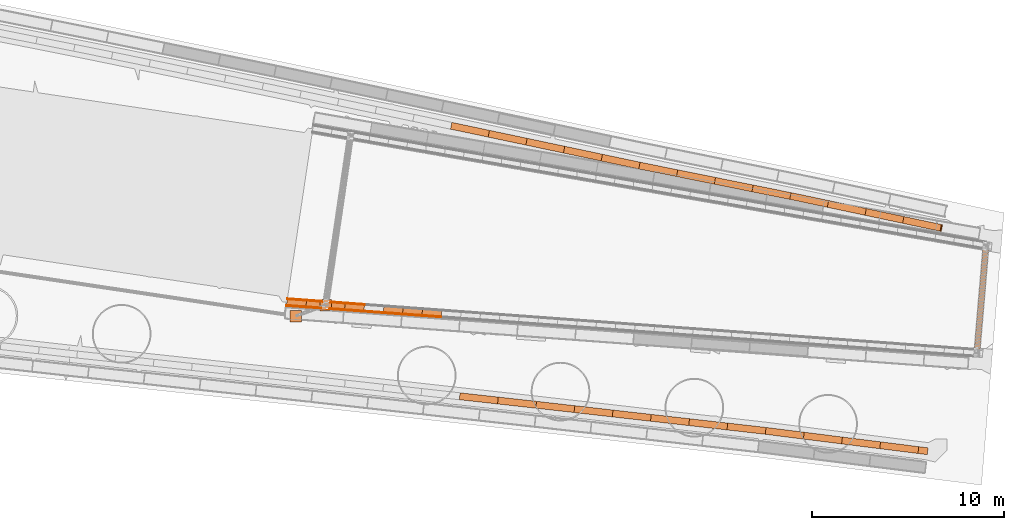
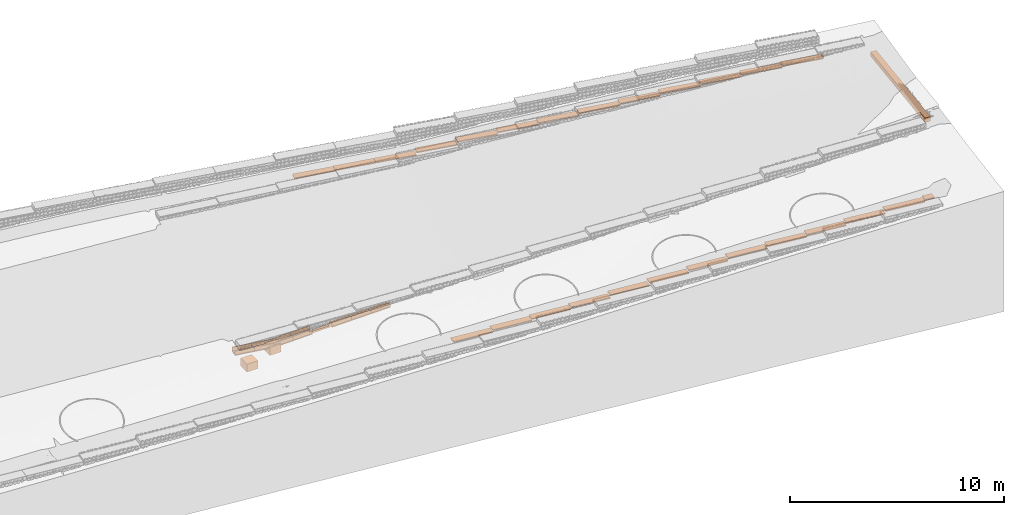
# Not in any storey, part 9 of 46: 49 proxies.
"""IFC4 model written with IfcOpenShell, lengths in metres."""

from ifc_helpers import new_model, si_unit, direction, frame, origin_with_axes, place, context, subcontext, project, spatial, polyline, outline, extrude, polygons, material, element, save


model = new_model("IFC4")

# Units and contexts
model_context = context("Model", 3, precision=1e-05, world=origin_with_axes(), true_north=direction((0.0, 1.0)))
body_context = subcontext(model_context, "Body", "Model", "MODEL_VIEW")
ifc_project = project(units=[si_unit("VOLUMEUNIT", "CUBIC_METRE"), si_unit("LENGTHUNIT", "METRE"), si_unit("AREAUNIT", "SQUARE_METRE")], contexts=[model_context])

# Site
site_placement = place(None, origin_with_axes())
site = spatial("IfcSite", under=ifc_project, at=site_placement, Name="Lares · Rua das Mercês · artigo 4771")

# Proxies
ifc_material_1 = material(Name="Caleiras · betão", Category="concrete")
proxy_1_placement = place(site_placement, frame((0.0, 0.0, 0.0), z_axis=(0.0, 0.0, 1.0), x_axis=(1.0, -1.03767253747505e-17, 0.0)))
element("IfcBuildingElementProxy", 1, at=proxy_1_placement, inside=site, material=ifc_material_1, Name="Acesso · canal lateral", ObjectType="Acesso · canal lateral", PredefinedType="USERDEFINED", context=body_context, shape_type="Tessellation", body=[
    polygons([(46.569207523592, 2.74740580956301, 13.48), (46.6281218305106, 3.14304340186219, 13.48), (47.6327046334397, 3.06917172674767, 13.4), (47.5737903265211, 2.67353413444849, 13.4), (46.569207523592, 2.74740580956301, 13.54), (46.6281218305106, 3.14304340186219, 13.54), (47.6327046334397, 3.06917172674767, 13.46), (47.5737903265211, 2.67353413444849, 13.46)], [[[4, 3, 2, 1]], [[5, 6, 7, 8]], [[1, 2, 6, 5]], [[2, 3, 7, 6]], [[3, 4, 8, 7]], [[4, 1, 5, 8]]]),
])
proxy_2_placement = place(site_placement, frame((0.0, 0.0, 0.0), z_axis=(0.0, 0.0, 1.0), x_axis=(1.0, -1.03767253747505e-17, 0.0)))
element("IfcBuildingElementProxy", 2, at=proxy_2_placement, inside=site, material=ifc_material_1, Name="Acesso · canal lateral", ObjectType="Acesso · canal lateral", PredefinedType="USERDEFINED", context=body_context, shape_type="Tessellation", body=[
    polygons([(46.569207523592, 2.74740580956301, 13.54), (46.5765718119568, 2.79686050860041, 13.54), (47.5811546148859, 2.72298883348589, 13.46), (47.5737903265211, 2.67353413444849, 13.46), (46.569207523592, 2.74740580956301, 13.74), (46.5765718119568, 2.79686050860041, 13.74), (47.5811546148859, 2.72298883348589, 13.66), (47.5737903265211, 2.67353413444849, 13.66)], [[[4, 3, 2, 1]], [[5, 6, 7, 8]], [[1, 2, 6, 5]], [[2, 3, 7, 6]], [[3, 4, 8, 7]], [[4, 1, 5, 8]]]),
])
proxy_3_placement = place(site_placement, frame((0.0, 0.0, 0.0), z_axis=(0.0, 0.0, 1.0), x_axis=(1.0, -1.03767253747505e-17, 0.0)))
element("IfcBuildingElementProxy", 3, at=proxy_3_placement, inside=site, material=ifc_material_1, Name="Acesso · canal lateral", ObjectType="Acesso · canal lateral", PredefinedType="USERDEFINED", context=body_context, shape_type="Tessellation", body=[
    polygons([(46.6207575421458, 3.0935887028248, 13.54), (46.6281218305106, 3.14304340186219, 13.54), (47.6327046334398, 3.06917172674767, 13.46), (47.6253403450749, 3.01971702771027, 13.46), (46.6207575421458, 3.0935887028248, 13.74), (46.6281218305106, 3.14304340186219, 13.74), (47.6327046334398, 3.06917172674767, 13.66), (47.6253403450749, 3.01971702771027, 13.66)], [[[4, 3, 2, 1]], [[5, 6, 7, 8]], [[1, 2, 6, 5]], [[2, 3, 7, 6]], [[3, 4, 8, 7]], [[4, 1, 5, 8]]]),
])
proxy_4_placement = place(site_placement, frame((0.0, 0.0, 0.0), z_axis=(0.0, 0.0, 1.0), x_axis=(1.0, -1.03767253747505e-17, 0.0)))
element("IfcBuildingElementProxy", 4, at=proxy_4_placement, inside=site, material=ifc_material_1, Name="Acesso · canal lateral", ObjectType="Acesso · canal lateral", PredefinedType="USERDEFINED", context=body_context, shape_type="Tessellation", body=[
    polygons([(47.5740034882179, 2.6735025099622, 13.4), (47.6324914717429, 3.06920335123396, 13.4), (48.6370807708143, 2.99533101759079, 13.32), (48.5785927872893, 2.59963017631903, 13.32), (47.5740034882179, 2.6735025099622, 13.46), (47.6324914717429, 3.06920335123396, 13.46), (48.6370807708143, 2.99533101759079, 13.38), (48.5785927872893, 2.59963017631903, 13.38)], [[[4, 3, 2, 1]], [[5, 6, 7, 8]], [[1, 2, 6, 5]], [[2, 3, 7, 6]], [[3, 4, 8, 7]], [[4, 1, 5, 8]]]),
])
proxy_5_placement = place(site_placement, frame((0.0, 0.0, 0.0), z_axis=(0.0, 0.0, 1.0), x_axis=(1.0, -1.03767253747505e-17, 0.0)))
element("IfcBuildingElementProxy", 5, at=proxy_5_placement, inside=site, material=ifc_material_1, Name="Acesso · canal lateral", ObjectType="Acesso · canal lateral", PredefinedType="USERDEFINED", context=body_context, shape_type="Tessellation", body=[
    polygons([(47.5740034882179, 2.6735025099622, 13.46), (47.5813144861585, 2.72296511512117, 13.46), (48.58590378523, 2.649092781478, 13.38), (48.5785927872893, 2.59963017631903, 13.38), (47.5740034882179, 2.6735025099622, 13.66), (47.5813144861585, 2.72296511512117, 13.66), (48.58590378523, 2.649092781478, 13.58), (48.5785927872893, 2.59963017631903, 13.58)], [[[4, 3, 2, 1]], [[5, 6, 7, 8]], [[1, 2, 6, 5]], [[2, 3, 7, 6]], [[3, 4, 8, 7]], [[4, 1, 5, 8]]]),
])
proxy_6_placement = place(site_placement, frame((0.0, 0.0, 0.0), z_axis=(0.0, 0.0, 1.0), x_axis=(1.0, -1.03767253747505e-17, 0.0)))
element("IfcBuildingElementProxy", 6, at=proxy_6_placement, inside=site, material=ifc_material_1, Name="Acesso · canal lateral", ObjectType="Acesso · canal lateral", PredefinedType="USERDEFINED", context=body_context, shape_type="Tessellation", body=[
    polygons([(47.6251804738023, 3.01974074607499, 13.46), (47.6324914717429, 3.06920335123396, 13.46), (48.6370807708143, 2.99533101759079, 13.38), (48.6297697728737, 2.94586841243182, 13.38), (47.6251804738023, 3.01974074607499, 13.66), (47.6324914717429, 3.06920335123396, 13.66), (48.6370807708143, 2.99533101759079, 13.58), (48.6297697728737, 2.94586841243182, 13.58)], [[[4, 3, 2, 1]], [[5, 6, 7, 8]], [[1, 2, 6, 5]], [[2, 3, 7, 6]], [[3, 4, 8, 7]], [[4, 1, 5, 8]]]),
])
proxy_7_placement = place(site_placement, frame((0.0, 0.0, 0.0), z_axis=(0.0, 0.0, 1.0), x_axis=(1.0, -1.03767253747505e-17, 0.0)))
element("IfcBuildingElementProxy", 7, at=proxy_7_placement, inside=site, material=ifc_material_1, Name="Acesso · canal lateral", ObjectType="Acesso · canal lateral", PredefinedType="USERDEFINED", context=body_context, shape_type="Tessellation", body=[
    polygons([(48.5788110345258, 2.5995980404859, 13.32), (48.6368625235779, 2.99536315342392, 13.32), (49.6414585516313, 2.92149014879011, 13.4), (49.5834070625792, 2.52572503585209, 13.4), (48.5788110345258, 2.5995980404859, 13.38), (48.6368625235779, 2.99536315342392, 13.38), (49.6414585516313, 2.92149014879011, 13.46), (49.5834070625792, 2.52572503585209, 13.46)], [[[4, 3, 2, 1]], [[5, 6, 7, 8]], [[1, 2, 6, 5]], [[2, 3, 7, 6]], [[3, 4, 8, 7]], [[4, 1, 5, 8]]]),
])
proxy_8_placement = place(site_placement, frame((0.0, 0.0, 0.0), z_axis=(0.0, 0.0, 1.0), x_axis=(1.0, -1.03767253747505e-17, 0.0)))
element("IfcBuildingElementProxy", 8, at=proxy_8_placement, inside=site, material=ifc_material_1, Name="Acesso · canal lateral", ObjectType="Acesso · canal lateral", PredefinedType="USERDEFINED", context=body_context, shape_type="Tessellation", body=[
    polygons([(48.5788110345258, 2.5995980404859, 13.38), (48.5860674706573, 2.64906867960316, 13.38), (49.5906634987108, 2.57519567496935, 13.46), (49.5834070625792, 2.52572503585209, 13.46), (48.5788110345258, 2.5995980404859, 13.58), (48.5860674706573, 2.64906867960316, 13.58), (49.5906634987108, 2.57519567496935, 13.66), (49.5834070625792, 2.52572503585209, 13.66)], [[[4, 3, 2, 1]], [[5, 6, 7, 8]], [[1, 2, 6, 5]], [[2, 3, 7, 6]], [[3, 4, 8, 7]], [[4, 1, 5, 8]]]),
])
proxy_9_placement = place(site_placement, frame((0.0, 0.0, 0.0), z_axis=(0.0, 0.0, 1.0), x_axis=(1.0, -1.03767253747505e-17, 0.0)))
element("IfcBuildingElementProxy", 9, at=proxy_9_placement, inside=site, material=ifc_material_1, Name="Acesso · canal lateral", ObjectType="Acesso · canal lateral", PredefinedType="USERDEFINED", context=body_context, shape_type="Tessellation", body=[
    polygons([(48.6296060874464, 2.94589251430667, 13.38), (48.6368625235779, 2.99536315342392, 13.38), (49.6414585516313, 2.92149014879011, 13.46), (49.6342021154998, 2.87201950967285, 13.46), (48.6296060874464, 2.94589251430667, 13.58), (48.6368625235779, 2.99536315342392, 13.58), (49.6414585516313, 2.92149014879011, 13.66), (49.6342021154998, 2.87201950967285, 13.66)], [[[4, 3, 2, 1]], [[5, 6, 7, 8]], [[1, 2, 6, 5]], [[2, 3, 7, 6]], [[3, 4, 8, 7]], [[4, 1, 5, 8]]]),
])
proxy_10_placement = place(site_placement, frame((0.0, 0.0, 0.0), z_axis=(0.0, 0.0, 1.0), x_axis=(1.0, -1.03767253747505e-17, 0.0)))
element("IfcBuildingElementProxy", 10, at=proxy_10_placement, inside=site, material=ifc_material_1, Name="Acesso · canal lateral", ObjectType="Acesso · canal lateral", PredefinedType="USERDEFINED", context=body_context, shape_type="Tessellation", body=[
    polygons([(49.5836305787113, 2.52569237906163, 13.4), (49.6412350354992, 2.92152280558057, 13.4), (50.6458380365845, 2.84764911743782, 13.48), (50.5882335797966, 2.45181869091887, 13.48), (49.5836305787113, 2.52569237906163, 13.46), (49.6412350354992, 2.92152280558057, 13.46), (50.6458380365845, 2.84764911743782, 13.54), (50.5882335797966, 2.45181869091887, 13.54)], [[[4, 3, 2, 1]], [[5, 6, 7, 8]], [[1, 2, 6, 5]], [[2, 3, 7, 6]], [[3, 4, 8, 7]], [[4, 1, 5, 8]]]),
])
proxy_11_placement = place(site_placement, frame((0.0, 0.0, 0.0), z_axis=(0.0, 0.0, 1.0), x_axis=(1.0, -1.03767253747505e-17, 0.0)))
element("IfcBuildingElementProxy", 11, at=proxy_11_placement, inside=site, material=ifc_material_1, Name="Acesso · canal lateral", ObjectType="Acesso · canal lateral", PredefinedType="USERDEFINED", context=body_context, shape_type="Tessellation", body=[
    polygons([(49.5836305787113, 2.52569237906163, 13.46), (49.5908311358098, 2.57517118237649, 13.46), (50.5954341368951, 2.50129749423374, 13.54), (50.5882335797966, 2.45181869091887, 13.54), (49.5836305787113, 2.52569237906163, 13.66), (49.5908311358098, 2.57517118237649, 13.66), (50.5954341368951, 2.50129749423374, 13.74), (50.5882335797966, 2.45181869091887, 13.74)], [[[4, 3, 2, 1]], [[5, 6, 7, 8]], [[1, 2, 6, 5]], [[2, 3, 7, 6]], [[3, 4, 8, 7]], [[4, 1, 5, 8]]]),
])
proxy_12_placement = place(site_placement, frame((0.0, 0.0, 0.0), z_axis=(0.0, 0.0, 1.0), x_axis=(1.0, -1.03767253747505e-17, 0.0)))
element("IfcBuildingElementProxy", 12, at=proxy_12_placement, inside=site, material=ifc_material_1, Name="Acesso · canal lateral", ObjectType="Acesso · canal lateral", PredefinedType="USERDEFINED", context=body_context, shape_type="Tessellation", body=[
    polygons([(49.6340344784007, 2.87204400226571, 13.46), (49.6412350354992, 2.92152280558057, 13.46), (50.6458380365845, 2.84764911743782, 13.54), (50.6386374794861, 2.79817031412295, 13.54), (49.6340344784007, 2.87204400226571, 13.66), (49.6412350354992, 2.92152280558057, 13.66), (50.6458380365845, 2.84764911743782, 13.74), (50.6386374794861, 2.79817031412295, 13.74)], [[[4, 3, 2, 1]], [[5, 6, 7, 8]], [[1, 2, 6, 5]], [[2, 3, 7, 6]], [[3, 4, 8, 7]], [[4, 1, 5, 8]]]),
])
proxy_13_placement = place(site_placement, frame((0.0, 0.0, 0.0), z_axis=(0.0, 0.0, 1.0), x_axis=(1.0, -1.03767253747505e-17, 0.0)))
element("IfcBuildingElementProxy", 13, at=proxy_13_placement, inside=site, material=ifc_material_1, Name="Acesso · canal lateral", ObjectType="Acesso · canal lateral", PredefinedType="USERDEFINED", context=body_context, shape_type="Tessellation", body=[
    polygons([(50.5884625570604, 2.45178550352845, 13.54), (50.5956058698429, 2.50127260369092, 13.54), (51.6002160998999, 2.42739821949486, 13.62), (51.5930727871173, 2.37791111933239, 13.62), (50.5884625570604, 2.45178550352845, 13.74), (50.5956058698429, 2.50127260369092, 13.74), (51.6002160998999, 2.42739821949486, 13.82), (51.5930727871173, 2.37791111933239, 13.82)], [[[4, 3, 2, 1]], [[5, 6, 7, 8]], [[1, 2, 6, 5]], [[2, 3, 7, 6]], [[3, 4, 8, 7]], [[4, 1, 5, 8]]]),
])
proxy_14_placement = place(site_placement, frame((0.0, 0.0, 0.0), z_axis=(0.0, 0.0, 1.0), x_axis=(1.0, -1.03767253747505e-17, 0.0)))
element("IfcBuildingElementProxy", 14, at=proxy_14_placement, inside=site, material=ifc_material_1, Name="Acesso · canal lateral", ObjectType="Acesso · canal lateral", PredefinedType="USERDEFINED", context=body_context, shape_type="Tessellation", body=[
    polygons([(51.5933074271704, 2.37787739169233, 13.56), (51.6499846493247, 2.77384164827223, 13.56), (52.6546023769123, 2.69996655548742, 13.6344580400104), (52.597925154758, 2.30400229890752, 13.6344580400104), (51.5933074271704, 2.37787739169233, 13.62), (51.6499846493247, 2.77384164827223, 13.62), (52.6546023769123, 2.69996655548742, 13.6944580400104), (52.597925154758, 2.30400229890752, 13.6944580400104)], [[[4, 3, 2, 1]], [[5, 6, 7, 8]], [[1, 2, 6, 5]], [[2, 3, 7, 6]], [[3, 4, 8, 7]], [[4, 1, 5, 8]]]),
])
proxy_15_placement = place(site_placement, frame((0.0, 0.0, 0.0), z_axis=(0.0, 0.0, 1.0), x_axis=(1.0, -1.03767253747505e-17, 0.0)))
element("IfcBuildingElementProxy", 15, at=proxy_15_placement, inside=site, material=ifc_material_1, Name="Acesso · canal lateral", ObjectType="Acesso · canal lateral", PredefinedType="USERDEFINED", context=body_context, shape_type="Tessellation", body=[
    polygons([(51.5933074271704, 2.37787739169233, 13.62), (51.6003920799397, 2.42737292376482, 13.62), (52.6050098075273, 2.35349783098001, 13.6944580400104), (52.597925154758, 2.30400229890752, 13.6944580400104), (51.5933074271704, 2.37787739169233, 13.82), (51.6003920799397, 2.42737292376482, 13.82), (52.6050098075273, 2.35349783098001, 13.8944580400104), (52.597925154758, 2.30400229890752, 13.8944580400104)], [[[4, 3, 2, 1]], [[5, 6, 7, 8]], [[1, 2, 6, 5]], [[2, 3, 7, 6]], [[3, 4, 8, 7]], [[4, 1, 5, 8]]]),
])
proxy_16_placement = place(site_placement, frame((0.0, 0.0, 0.0), z_axis=(0.0, 0.0, 1.0), x_axis=(1.0, -1.03767253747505e-17, 0.0)))
element("IfcBuildingElementProxy", 16, at=proxy_16_placement, inside=site, material=ifc_material_1, Name="Acesso · canal lateral", ObjectType="Acesso · canal lateral", PredefinedType="USERDEFINED", context=body_context, shape_type="Tessellation", body=[
    polygons([(52.5981656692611, 2.30396802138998, 13.6344580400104), (52.6543618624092, 2.70000083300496, 13.6344580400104), (53.6589873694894, 2.62612501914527, 13.7089160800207), (53.6027911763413, 2.2300922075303, 13.7089160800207), (52.5981656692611, 2.30396802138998, 13.6944580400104), (52.6543618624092, 2.70000083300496, 13.6944580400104), (53.6589873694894, 2.62612501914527, 13.7689160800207), (53.6027911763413, 2.2300922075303, 13.7689160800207)], [[[4, 3, 2, 1]], [[5, 6, 7, 8]], [[1, 2, 6, 5]], [[2, 3, 7, 6]], [[3, 4, 8, 7]], [[4, 1, 5, 8]]]),
])
proxy_17_placement = place(site_placement, frame((0.0, 0.0, 0.0), z_axis=(0.0, 0.0, 1.0), x_axis=(1.0, -1.03767253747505e-17, 0.0)))
element("IfcBuildingElementProxy", 17, at=proxy_17_placement, inside=site, material=ifc_material_1, Name="Acesso · canal lateral", ObjectType="Acesso · canal lateral", PredefinedType="USERDEFINED", context=body_context, shape_type="Tessellation", body=[
    polygons([(52.5981656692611, 2.30396802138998, 13.6944580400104), (52.6051901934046, 2.35347212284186, 13.6944580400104), (53.6098157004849, 2.27959630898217, 13.7689160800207), (53.6027911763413, 2.2300922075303, 13.7689160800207), (52.5981656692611, 2.30396802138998, 13.8944580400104), (52.6051901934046, 2.35347212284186, 13.8944580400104), (53.6098157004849, 2.27959630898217, 13.9689160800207), (53.6027911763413, 2.2300922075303, 13.9689160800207)], [[[4, 3, 2, 1]], [[5, 6, 7, 8]], [[1, 2, 6, 5]], [[2, 3, 7, 6]], [[3, 4, 8, 7]], [[4, 1, 5, 8]]]),
])
proxy_18_placement = place(site_placement, frame((0.0, 0.0, 0.0), z_axis=(0.0, 0.0, 1.0), x_axis=(1.0, -1.03767253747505e-17, 0.0)))
element("IfcBuildingElementProxy", 18, at=proxy_18_placement, inside=site, material=ifc_material_1, Name="Acesso · canal lateral", ObjectType="Acesso · canal lateral", PredefinedType="USERDEFINED", context=body_context, shape_type="Tessellation", body=[
    polygons([(53.6030377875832, 2.23005737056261, 13.7089160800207), (53.6587407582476, 2.62615985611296, 13.7089160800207), (54.6633743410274, 2.55228330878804, 13.7833741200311), (54.607671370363, 2.1561808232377, 13.7833741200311), (53.6030377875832, 2.23005737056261, 13.7689160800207), (53.6587407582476, 2.62615985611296, 13.7689160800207), (54.6633743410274, 2.55228330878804, 13.8433741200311), (54.607671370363, 2.1561808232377, 13.8433741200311)], [[[4, 3, 2, 1]], [[5, 6, 7, 8]], [[1, 2, 6, 5]], [[2, 3, 7, 6]], [[3, 4, 8, 7]], [[4, 1, 5, 8]]]),
])
proxy_19_placement = place(site_placement, frame((0.0, 0.0, 0.0), z_axis=(0.0, 0.0, 1.0), x_axis=(1.0, -1.03767253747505e-17, 0.0)))
element("IfcBuildingElementProxy", 19, at=proxy_19_placement, inside=site, material=ifc_material_1, Name="Acesso · canal lateral", ObjectType="Acesso · canal lateral", PredefinedType="USERDEFINED", context=body_context, shape_type="Tessellation", body=[
    polygons([(53.6030377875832, 2.23005737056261, 13.7689160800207), (53.6100006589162, 2.2795701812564, 13.7689160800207), (54.6146342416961, 2.20569363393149, 13.8433741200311), (54.607671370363, 2.1561808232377, 13.8433741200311), (53.6030377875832, 2.23005737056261, 13.9689160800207), (53.6100006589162, 2.2795701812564, 13.9689160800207), (54.6146342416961, 2.20569363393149, 14.0433741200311), (54.607671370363, 2.1561808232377, 14.0433741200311)], [[[4, 3, 2, 1]], [[5, 6, 7, 8]], [[1, 2, 6, 5]], [[2, 3, 7, 6]], [[3, 4, 8, 7]], [[4, 1, 5, 8]]]),
])
proxy_20_placement = place(site_placement, frame((0.0, 0.0, 15.8649472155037), z_axis=(0.0, 0.0, 1.0), x_axis=(1.0, -1.03767253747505e-17, 0.0)))
element("IfcBuildingElementProxy", 20, at=proxy_20_placement, inside=site, material=ifc_material_1, Name="Interceção · caleira rua", ObjectType="Interceção · caleira rua", PredefinedType="USERDEFINED", context=body_context, shape_type="SweptSolid", body=[
    extrude(outline(polyline([(82.7967562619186, 6.08892167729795), (83.0956811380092, 6.06354612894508), (82.5899858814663, 0.106437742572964), (82.2910610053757, 0.13181329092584), (82.7967562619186, 6.08892167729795)])), origin_with_axes(), (0.0, 0.0, 1.0), 0.25),
])
proxy_21_placement = place(site_placement, frame((0.0, 0.0, 13.04), z_axis=(0.0, 0.0, 1.0), x_axis=(1.0, -1.03767253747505e-17, 0.0)))
element("IfcBuildingElementProxy", 21, at=proxy_21_placement, inside=site, material=ifc_material_1, Name="Acesso · caixa de retenção de sedimentos", ObjectType="Acesso · caixa de retenção de sedimentos", PredefinedType="USERDEFINED", context=body_context, shape_type="SweptSolid", body=[
    extrude(outline(polyline([(48.9078367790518, 2.49748059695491), (48.9078367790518, 3.09748059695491), (48.3078367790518, 3.09748059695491), (48.3078367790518, 2.49748059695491), (48.9078367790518, 2.49748059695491)])), origin_with_axes(), (0.0, 0.0, 1.0), 0.45),
])
proxy_22_placement = place(site_placement, frame((0.0, 0.0, 12.976743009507), z_axis=(0.0, 0.0, 1.0), x_axis=(1.0, -1.03767253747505e-17, 0.0)))
element("IfcBuildingElementProxy", 22, at=proxy_22_placement, inside=site, material=ifc_material_1, Name="Acesso · caixa de retenção de sedimentos", ObjectType="Acesso · caixa de retenção de sedimentos", PredefinedType="USERDEFINED", context=body_context, shape_type="SweptSolid", body=[
    extrude(outline(polyline([(47.3480253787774, 1.93095927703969), (47.3480253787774, 2.53095927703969), (46.7480253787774, 2.53095927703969), (46.7480253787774, 1.93095927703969), (47.3480253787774, 1.93095927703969)])), origin_with_axes(), (0.0, 0.0, 1.0), 0.45),
])
ifc_material_2 = material(Name="Brita drenante", Category="stone")
proxy_23_placement = place(site_placement, frame((0.0, 0.0, 15.0027187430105), z_axis=(0.0, 0.0, 1.0), x_axis=(1.0, -1.03767253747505e-17, 0.0)))
element("IfcBuildingElementProxy", 23, at=proxy_23_placement, inside=site, material=ifc_material_2, Name="Limite north · vala de interceção", ObjectType="Limite north · vala de interceção", PredefinedType="USERDEFINED", context=body_context, shape_type="SweptSolid", body=[
    extrude(outline(polyline([(56.2661596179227, 12.0634059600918), (56.2664302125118, 12.0633489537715), (57.1303956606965, 11.8806436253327), (57.0559126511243, 11.5284330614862), (56.1920824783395, 11.7111097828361), (55.0991041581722, 11.9404914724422), (55.1730459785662, 12.2928160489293), (56.2661596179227, 12.0634059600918)])), origin_with_axes(), (0.0, 0.0, 1.0), 0.06),
])
proxy_24_placement = place(site_placement, frame((0.0, 0.0, 15.0307989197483), z_axis=(0.0, 0.0, 1.0), x_axis=(1.0, -1.03767253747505e-17, 0.0)))
element("IfcBuildingElementProxy", 24, at=proxy_24_placement, inside=site, material=ifc_material_2, Name="Limite north · vala de interceção", ObjectType="Limite north · vala de interceção", PredefinedType="USERDEFINED", context=body_context, shape_type="SweptSolid", body=[
    extrude(outline(polyline([(59.0871210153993, 11.4668491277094), (59.0126380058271, 11.1146385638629), (57.0559126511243, 11.5284330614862), (57.1303956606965, 11.8806436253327), (59.0871210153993, 11.4668491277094)])), origin_with_axes(), (0.0, 0.0, 1.0), 0.06),
])
proxy_25_placement = place(site_placement, frame((0.0, 0.0, 15.0374429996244), z_axis=(0.0, 0.0, 1.0), x_axis=(1.0, -1.03767253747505e-17, 0.0)))
element("IfcBuildingElementProxy", 25, at=proxy_25_placement, inside=site, material=ifc_material_2, Name="Limite north · vala de interceção", ObjectType="Limite north · vala de interceção", PredefinedType="USERDEFINED", context=body_context, shape_type="SweptSolid", body=[
    extrude(outline(polyline([(61.043846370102, 11.0530546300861), (60.9693633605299, 10.7008440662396), (59.0126380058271, 11.1146385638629), (59.0871210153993, 11.4668491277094), (61.043846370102, 11.0530546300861)])), origin_with_axes(), (0.0, 0.0, 1.0), 0.06),
])
proxy_26_placement = place(site_placement, frame((0.0, 0.0, 15.1813322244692), z_axis=(0.0, 0.0, 1.0), x_axis=(1.0, -1.03767253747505e-17, 0.0)))
element("IfcBuildingElementProxy", 26, at=proxy_26_placement, inside=site, material=ifc_material_2, Name="Limite north · vala de interceção", ObjectType="Limite north · vala de interceção", PredefinedType="USERDEFINED", context=body_context, shape_type="SweptSolid", body=[
    extrude(outline(polyline([(63.0005717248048, 10.6392601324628), (62.9260887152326, 10.2870495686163), (60.9693633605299, 10.7008440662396), (61.043846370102, 11.0530546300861), (63.0005717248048, 10.6392601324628)])), origin_with_axes(), (0.0, 0.0, 1.0), 0.06),
])
proxy_27_placement = place(site_placement, frame((0.0, 0.0, 15.346342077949), z_axis=(0.0, 0.0, 1.0), x_axis=(1.0, -1.03767253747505e-17, 0.0)))
element("IfcBuildingElementProxy", 27, at=proxy_27_placement, inside=site, material=ifc_material_2, Name="Limite north · vala de interceção", ObjectType="Limite north · vala de interceção", PredefinedType="USERDEFINED", context=body_context, shape_type="SweptSolid", body=[
    extrude(outline(polyline([(64.9572970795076, 10.2254656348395), (64.8828140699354, 9.873255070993), (62.9260887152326, 10.2870495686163), (63.0005717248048, 10.6392601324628), (64.9572970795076, 10.2254656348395)])), origin_with_axes(), (0.0, 0.0, 1.0), 0.06),
])
proxy_28_placement = place(site_placement, frame((0.0, 0.0, 15.4582202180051), z_axis=(0.0, 0.0, 1.0), x_axis=(1.0, -1.03767253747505e-17, 0.0)))
element("IfcBuildingElementProxy", 28, at=proxy_28_placement, inside=site, material=ifc_material_2, Name="Limite north · vala de interceção", ObjectType="Limite north · vala de interceção", PredefinedType="USERDEFINED", context=body_context, shape_type="SweptSolid", body=[
    extrude(outline(polyline([(64.9611671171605, 10.2246472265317), (66.9161548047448, 9.83033794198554), (66.8449782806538, 9.47744432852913), (64.8891631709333, 9.87192049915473), (64.8875099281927, 9.87226202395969), (64.8828140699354, 9.873255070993), (64.9572970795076, 10.2254656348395), (64.9611671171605, 10.2246472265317)])), origin_with_axes(), (0.0, 0.0, 1.0), 0.06),
])
proxy_29_placement = place(site_placement, frame((0.0, 0.0, 15.5363302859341), z_axis=(0.0, 0.0, 1.0), x_axis=(1.0, -1.03767253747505e-17, 0.0)))
element("IfcBuildingElementProxy", 29, at=proxy_29_placement, inside=site, material=ifc_material_2, Name="Limite north · vala de interceção", ObjectType="Limite north · vala de interceção", PredefinedType="USERDEFINED", context=body_context, shape_type="SweptSolid", body=[
    extrude(outline(polyline([(68.8766748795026, 9.43491280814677), (68.8054983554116, 9.08201919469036), (66.8449782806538, 9.47744432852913), (66.9161548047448, 9.83033794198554), (68.8766748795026, 9.43491280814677)])), origin_with_axes(), (0.0, 0.0, 1.0), 0.06),
])
proxy_30_placement = place(site_placement, frame((0.0, 0.0, 15.641191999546), z_axis=(0.0, 0.0, 1.0), x_axis=(1.0, -1.03767253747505e-17, 0.0)))
element("IfcBuildingElementProxy", 30, at=proxy_30_placement, inside=site, material=ifc_material_2, Name="Limite north · vala de interceção", ObjectType="Limite north · vala de interceção", PredefinedType="USERDEFINED", context=body_context, shape_type="SweptSolid", body=[
    extrude(outline(polyline([(70.8371949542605, 9.039487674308), (70.7660184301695, 8.68659406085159), (68.8054983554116, 9.08201919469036), (68.8766748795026, 9.43491280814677), (70.8371949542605, 9.039487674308)])), origin_with_axes(), (0.0, 0.0, 1.0), 0.06),
])
proxy_31_placement = place(site_placement, frame((0.0, 0.0, 15.7528472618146), z_axis=(0.0, 0.0, 1.0), x_axis=(1.0, -1.03767253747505e-17, 0.0)))
element("IfcBuildingElementProxy", 31, at=proxy_31_placement, inside=site, material=ifc_material_2, Name="Limite north · vala de interceção", ObjectType="Limite north · vala de interceção", PredefinedType="USERDEFINED", context=body_context, shape_type="SweptSolid", body=[
    extrude(outline(polyline([(72.7977150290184, 8.64406254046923), (72.7265385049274, 8.29116892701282), (70.7660184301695, 8.68659406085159), (70.8371949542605, 9.039487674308), (72.7977150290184, 8.64406254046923)])), origin_with_axes(), (0.0, 0.0, 1.0), 0.06),
])
proxy_32_placement = place(site_placement, frame((0.0, 0.0, 15.8750952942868), z_axis=(0.0, 0.0, 1.0), x_axis=(1.0, -1.03767253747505e-17, 0.0)))
element("IfcBuildingElementProxy", 32, at=proxy_32_placement, inside=site, material=ifc_material_2, Name="Limite north · vala de interceção", ObjectType="Limite north · vala de interceção", PredefinedType="USERDEFINED", context=body_context, shape_type="SweptSolid", body=[
    extrude(outline(polyline([(73.2831791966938, 8.54614733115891), (73.284996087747, 8.54577111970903), (74.7569069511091, 8.23307239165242), (74.6820966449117, 7.88093120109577), (73.2110932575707, 8.19343714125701), (72.7265385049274, 8.29116892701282), (72.7977150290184, 8.64406254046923), (73.2831791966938, 8.54614733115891)])), origin_with_axes(), (0.0, 0.0, 1.0), 0.06),
])
proxy_33_placement = place(site_placement, frame((0.0, 0.0, 15.9753502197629), z_axis=(0.0, 0.0, 1.0), x_axis=(1.0, -1.03767253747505e-17, 0.0)))
element("IfcBuildingElementProxy", 33, at=proxy_33_placement, inside=site, material=ifc_material_2, Name="Limite north · vala de interceção", ObjectType="Limite north · vala de interceção", PredefinedType="USERDEFINED", context=body_context, shape_type="SweptSolid", body=[
    extrude(outline(polyline([(76.7132468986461, 7.81745957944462), (76.6384365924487, 7.46531838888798), (74.6820966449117, 7.88093120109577), (74.7569069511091, 8.23307239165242), (76.7132468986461, 7.81745957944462)])), origin_with_axes(), (0.0, 0.0, 1.0), 0.06),
])
proxy_34_placement = place(site_placement, frame((0.0, 0.0, 16.0728176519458), z_axis=(0.0, 0.0, 1.0), x_axis=(1.0, -1.03767253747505e-17, 0.0)))
element("IfcBuildingElementProxy", 34, at=proxy_34_placement, inside=site, material=ifc_material_2, Name="Limite north · vala de interceção", ObjectType="Limite north · vala de interceção", PredefinedType="USERDEFINED", context=body_context, shape_type="SweptSolid", body=[
    extrude(outline(polyline([(78.669586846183, 7.40184676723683), (78.5947765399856, 7.04970557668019), (76.6384365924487, 7.46531838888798), (76.7132468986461, 7.81745957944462), (78.669586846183, 7.40184676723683)])), origin_with_axes(), (0.0, 0.0, 1.0), 0.06),
])
proxy_35_placement = place(site_placement, frame((0.0, 0.0, 16.1534996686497), z_axis=(0.0, 0.0, 1.0), x_axis=(1.0, -1.03767253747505e-17, 0.0)))
element("IfcBuildingElementProxy", 35, at=proxy_35_placement, inside=site, material=ifc_material_2, Name="Limite north · vala de interceção", ObjectType="Limite north · vala de interceção", PredefinedType="USERDEFINED", context=body_context, shape_type="SweptSolid", body=[
    extrude(outline(polyline([(80.6259267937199, 6.98623395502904), (80.5511164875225, 6.63409276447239), (78.5947765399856, 7.04970557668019), (78.669586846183, 7.40184676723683), (80.6259267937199, 6.98623395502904)])), origin_with_axes(), (0.0, 0.0, 1.0), 0.06),
])
proxy_36_placement = place(site_placement, frame((0.0, 0.0, 16.1947036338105), z_axis=(0.0, 0.0, 1.0), x_axis=(1.0, -1.03767253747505e-17, 0.0)))
element("IfcBuildingElementProxy", 36, at=proxy_36_placement, inside=site, material=ifc_material_2, Name="Limite north · vala de interceção", ObjectType="Limite north · vala de interceção", PredefinedType="USERDEFINED", context=body_context, shape_type="SweptSolid", body=[
    extrude(outline(polyline([(80.6677759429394, 6.9773433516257), (80.592965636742, 6.62520216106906), (80.5511164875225, 6.63409276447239), (80.6259267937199, 6.98623395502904), (80.6677759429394, 6.9773433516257)])), origin_with_axes(), (0.0, 0.0, 1.0), 0.06),
])
proxy_37_placement = place(site_placement, frame((0.0, 0.0, 14.0280133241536), z_axis=(0.0, 0.0, 1.0), x_axis=(1.0, -1.03767253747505e-17, 0.0)))
element("IfcBuildingElementProxy", 37, at=proxy_37_placement, inside=site, material=ifc_material_2, Name="Limite south · vala de interceção", ObjectType="Limite south · vala de interceção", PredefinedType="USERDEFINED", context=body_context, shape_type="SweptSolid", body=[
    extrude(outline(polyline([(57.586802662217, -1.98099265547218), (57.5470734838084, -2.33879370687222), (55.5592898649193, -2.11807604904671), (55.5990190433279, -1.76027499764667), (57.586802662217, -1.98099265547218)])), origin_with_axes(), (0.0, 0.0, 1.0), 0.06),
])
proxy_38_placement = place(site_placement, frame((0.0, 0.0, 14.1395809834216), z_axis=(0.0, 0.0, 1.0), x_axis=(1.0, -1.03767253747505e-17, 0.0)))
element("IfcBuildingElementProxy", 38, at=proxy_38_placement, inside=site, material=ifc_material_2, Name="Limite south · vala de interceção", ObjectType="Limite south · vala de interceção", PredefinedType="USERDEFINED", context=body_context, shape_type="SweptSolid", body=[
    extrude(outline(polyline([(59.4488968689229, -2.187754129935), (59.4493673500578, -2.18780699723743), (59.5750196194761, -2.20209372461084), (59.5343494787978, -2.55978904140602), (59.4089324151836, -2.54552905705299), (57.5470734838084, -2.33879370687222), (57.586802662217, -1.98099265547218), (59.4488968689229, -2.187754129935)])), origin_with_axes(), (0.0, 0.0, 1.0), 0.06),
])
proxy_39_placement = place(site_placement, frame((0.0, 0.0, 14.2170636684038), z_axis=(0.0, 0.0, 1.0), x_axis=(1.0, -1.03767253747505e-17, 0.0)))
element("IfcBuildingElementProxy", 39, at=proxy_39_placement, inside=site, material=ifc_material_2, Name="Limite south · vala de interceção", ObjectType="Limite south · vala de interceção", PredefinedType="USERDEFINED", context=body_context, shape_type="SweptSolid", body=[
    extrude(outline(polyline([(61.5622158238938, -2.42803895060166), (61.5215456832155, -2.78573426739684), (59.5343494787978, -2.55978904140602), (59.5750196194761, -2.20209372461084), (61.5622158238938, -2.42803895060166)])), origin_with_axes(), (0.0, 0.0, 1.0), 0.06),
])
proxy_40_placement = place(site_placement, frame((0.0, 0.0, 14.3081618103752), z_axis=(0.0, 0.0, 1.0), x_axis=(1.0, -1.03767253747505e-17, 0.0)))
element("IfcBuildingElementProxy", 40, at=proxy_40_placement, inside=site, material=ifc_material_2, Name="Limite south · vala de interceção", ObjectType="Limite south · vala de interceção", PredefinedType="USERDEFINED", context=body_context, shape_type="SweptSolid", body=[
    extrude(outline(polyline([(63.5494120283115, -2.65398417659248), (63.5087418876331, -3.01167949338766), (61.5215456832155, -2.78573426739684), (61.5622158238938, -2.42803895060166), (63.5494120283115, -2.65398417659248)])), origin_with_axes(), (0.0, 0.0, 1.0), 0.06),
])
proxy_41_placement = place(site_placement, frame((0.0, 0.0, 14.4566455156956), z_axis=(0.0, 0.0, 1.0), x_axis=(1.0, -1.03767253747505e-17, 0.0)))
element("IfcBuildingElementProxy", 41, at=proxy_41_placement, inside=site, material=ifc_material_2, Name="Limite south · vala de interceção", ObjectType="Limite south · vala de interceção", PredefinedType="USERDEFINED", context=body_context, shape_type="SweptSolid", body=[
    extrude(outline(polyline([(65.5366082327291, -2.8799294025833), (65.4959380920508, -3.23762471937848), (63.5087418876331, -3.01167949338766), (63.5494120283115, -2.65398417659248), (65.5366082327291, -2.8799294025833)])), origin_with_axes(), (0.0, 0.0, 1.0), 0.06),
])
proxy_42_placement = place(site_placement, frame((0.0, 0.0, 14.605129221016), z_axis=(0.0, 0.0, 1.0), x_axis=(1.0, -1.03767253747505e-17, 0.0)))
element("IfcBuildingElementProxy", 42, at=proxy_42_placement, inside=site, material=ifc_material_2, Name="Limite south · vala de interceção", ObjectType="Limite south · vala de interceção", PredefinedType="USERDEFINED", context=body_context, shape_type="SweptSolid", body=[
    extrude(outline(polyline([(67.5238044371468, -3.10587462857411), (67.4831342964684, -3.46356994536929), (65.4959380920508, -3.23762471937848), (65.5366082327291, -2.8799294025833), (67.5238044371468, -3.10587462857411)])), origin_with_axes(), (0.0, 0.0, 1.0), 0.06),
])
proxy_43_placement = place(site_placement, frame((0.0, 0.0, 14.7536129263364), z_axis=(0.0, 0.0, 1.0), x_axis=(1.0, -1.03767253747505e-17, 0.0)))
element("IfcBuildingElementProxy", 43, at=proxy_43_placement, inside=site, material=ifc_material_2, Name="Limite south · vala de interceção", ObjectType="Limite south · vala de interceção", PredefinedType="USERDEFINED", context=body_context, shape_type="SweptSolid", body=[
    extrude(outline(polyline([(69.5110006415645, -3.33181985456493), (69.4703305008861, -3.68951517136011), (67.4831342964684, -3.46356994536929), (67.5238044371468, -3.10587462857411), (69.5110006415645, -3.33181985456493)])), origin_with_axes(), (0.0, 0.0, 1.0), 0.06),
])
proxy_44_placement = place(site_placement, frame((0.0, 0.0, 14.9020966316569), z_axis=(0.0, 0.0, 1.0), x_axis=(1.0, -1.03767253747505e-17, 0.0)))
element("IfcBuildingElementProxy", 44, at=proxy_44_placement, inside=site, material=ifc_material_2, Name="Limite south · vala de interceção", ObjectType="Limite south · vala de interceção", PredefinedType="USERDEFINED", context=body_context, shape_type="SweptSolid", body=[
    extrude(outline(polyline([(71.4699829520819, -3.55455714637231), (71.4721121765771, -3.55481209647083), (71.5002858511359, -3.55835592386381), (71.4553572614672, -3.91554134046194), (71.4282474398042, -3.91213132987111), (69.4703305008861, -3.68951517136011), (69.5110006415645, -3.33181985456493), (71.4699829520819, -3.55455714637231)])), origin_with_axes(), (0.0, 0.0, 1.0), 0.06),
])
proxy_45_placement = place(site_placement, frame((0.0, 0.0, 15.0140327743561), z_axis=(0.0, 0.0, 1.0), x_axis=(1.0, -1.03767253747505e-17, 0.0)))
element("IfcBuildingElementProxy", 45, at=proxy_45_placement, inside=site, material=ifc_material_2, Name="Limite south · vala de interceção", ObjectType="Limite south · vala de interceção", PredefinedType="USERDEFINED", context=body_context, shape_type="SweptSolid", body=[
    extrude(outline(polyline([(73.4846492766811, -3.80795919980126), (73.4397206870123, -4.16514461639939), (71.4553572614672, -3.91554134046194), (71.5002858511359, -3.55835592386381), (73.4846492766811, -3.80795919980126)])), origin_with_axes(), (0.0, 0.0, 1.0), 0.06),
])
proxy_46_placement = place(site_placement, frame((0.0, 0.0, 15.1274253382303), z_axis=(0.0, 0.0, 1.0), x_axis=(1.0, -1.03767253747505e-17, 0.0)))
element("IfcBuildingElementProxy", 46, at=proxy_46_placement, inside=site, material=ifc_material_2, Name="Limite south · vala de interceção", ObjectType="Limite south · vala de interceção", PredefinedType="USERDEFINED", context=body_context, shape_type="SweptSolid", body=[
    extrude(outline(polyline([(75.4690127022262, -4.05756247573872), (75.4240841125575, -4.41474789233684), (73.4397206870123, -4.16514461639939), (73.4846492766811, -3.80795919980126), (75.4690127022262, -4.05756247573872)])), origin_with_axes(), (0.0, 0.0, 1.0), 0.06),
])
proxy_47_placement = place(site_placement, frame((0.0, 0.0, 15.2554262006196), z_axis=(0.0, 0.0, 1.0), x_axis=(1.0, -1.03767253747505e-17, 0.0)))
element("IfcBuildingElementProxy", 47, at=proxy_47_placement, inside=site, material=ifc_material_2, Name="Limite south · vala de interceção", ObjectType="Limite south · vala de interceção", PredefinedType="USERDEFINED", context=body_context, shape_type="SweptSolid", body=[
    extrude(outline(polyline([(77.4533761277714, -4.30716575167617), (77.4084475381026, -4.6643511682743), (75.4240841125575, -4.41474789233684), (75.4690127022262, -4.05756247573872), (77.4533761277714, -4.30716575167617)])), origin_with_axes(), (0.0, 0.0, 1.0), 0.06),
])
proxy_48_placement = place(site_placement, frame((0.0, 0.0, 15.3940637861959), z_axis=(0.0, 0.0, 1.0), x_axis=(1.0, -1.03767253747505e-17, 0.0)))
element("IfcBuildingElementProxy", 48, at=proxy_48_placement, inside=site, material=ifc_material_2, Name="Limite south · vala de interceção", ObjectType="Limite south · vala de interceção", PredefinedType="USERDEFINED", context=body_context, shape_type="SweptSolid", body=[
    extrude(outline(polyline([(79.4377395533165, -4.55676902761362), (79.3928109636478, -4.91395444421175), (77.4084475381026, -4.6643511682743), (77.4533761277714, -4.30716575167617), (79.4377395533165, -4.55676902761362)])), origin_with_axes(), (0.0, 0.0, 1.0), 0.06),
])
proxy_49_placement = place(site_placement, frame((0.0, 0.0, 15.4802340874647), z_axis=(0.0, 0.0, 1.0), x_axis=(1.0, -1.03767253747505e-17, 0.0)))
element("IfcBuildingElementProxy", 49, at=proxy_49_placement, inside=site, material=ifc_material_2, Name="Limite south · vala de interceção", ObjectType="Limite south · vala de interceção", PredefinedType="USERDEFINED", context=body_context, shape_type="SweptSolid", body=[
    extrude(outline(polyline([(79.9201414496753, -4.61744797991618), (79.8752128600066, -4.9746333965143), (79.3928109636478, -4.91395444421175), (79.4377395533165, -4.55676902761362), (79.9201414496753, -4.61744797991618)])), origin_with_axes(), (0.0, 0.0, 1.0), 0.06),
])

save(model, "model.ifc")
